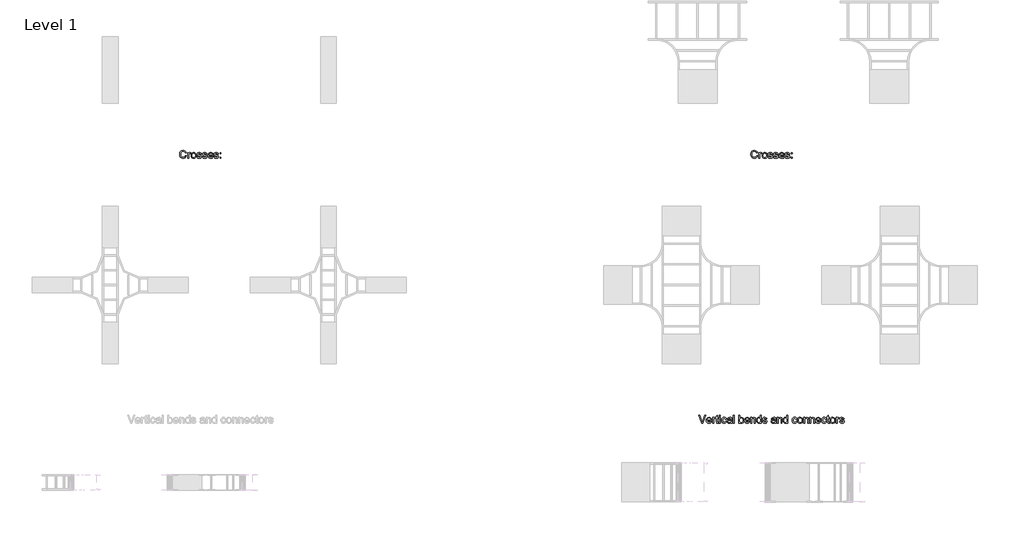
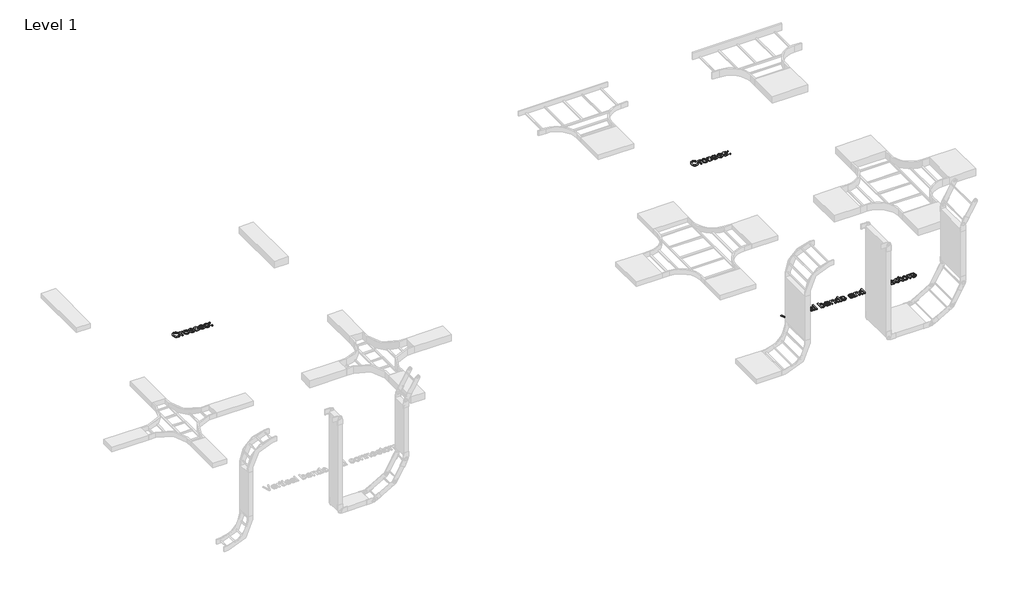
# One storey, part 95 of 106: 3 proxies.
"""IFC4 building model written with IfcOpenShell, lengths in millimetres."""

from ifc_helpers import new_model, si_unit, origin, origin_with_axes, place, context, project, spatial, polyline, outline, extrude, element, save

model = new_model("IFC4")

# Units and contexts
model_context = context("Model", 3, world=origin())
ifc_project = project(units=[si_unit("LENGTHUNIT", "METRE", prefix="MILLI")], contexts=[model_context])

# Site, building, storey
site = spatial("IfcSite", under=ifc_project)
building = spatial("IfcBuilding", under=site)
storey = spatial("IfcBuildingStorey", under=building, Name="Level 1", Elevation=0.0)

# Proxies
placement = place(None, origin())
element("IfcBuildingElementProxy", 1, Name="150mm Arial 2", ObjectType="150mm Arial 2", at=placement, inside=storey, context=model_context, shape_type="SweptSolid", body=[
    extrude(outline(polyline([(132026.8011102, 62501.4112533), (132045.6366684, 62496.5552109), (132036.9454562, 62474.6064514), (132023.3062312, 62458.5713949), (132005.3903781, 62448.7627412), (131983.8692814, 62445.49319), (131962.0216894, 62447.9671964), (131944.6714548, 62455.3892157), (131931.3725206, 62467.5017304), (131921.6788301, 62484.0472231), (131915.7605285, 62503.4989836), (131913.7877613, 62524.3303016), (131916.0180459, 62546.3020537), (131922.7088997, 62565.2755676), (131933.5108347, 62580.6484365), (131948.0743632, 62591.8182536), (131965.3464229, 62598.619472), (131984.2739516, 62600.8865448), (132004.9259271, 62597.9526859), (132022.0002502, 62589.1511091), (132034.963492, 62575.0244405), (132043.2822236, 62556.115306), (132024.4466654, 62551.6271456), (132017.91676, 62565.3629396), (132008.9956216, 62574.7853172), (131997.5728857, 62580.2345693), (131983.5381876, 62582.0509866), (131967.3605768, 62580.0368327), (131954.0708398, 62573.9943709), (131943.9862746, 62564.5581977), (131937.4241795, 62552.3629096), (131932.6233194, 62524.3670898), (131934.0442636, 62506.9662714), (131938.3070963, 62491.9198978), (131945.5727657, 62479.8027846), (131956.0022202, 62471.1897474), (131968.5056095, 62466.043998), (131981.9930832, 62464.3287482), (131997.71544, 62466.6647988), (132010.8166375, 62473.6729508), (132020.7080647, 62485.2796278), (132026.8011102, 62501.4112533)])), origin_with_axes(), (0.0, 0.0, 1.0), 15.0),
    extrude(outline(polyline([(132069.181116, 62447.8476348), (132069.181116, 62558.5065389), (132085.6622294, 62558.5065389), (132085.6622294, 62542.1357901), (132097.3608769, 62557.2189519), (132109.1331007, 62560.8609837), (132128.0422353, 62555.0484482), (132121.7514532, 62538.1626646), (132108.5077013, 62542.0254255), (132097.8575176, 62538.3098174), (132091.0700948, 62528.0091215), (132088.0166742, 62506.0097782), (132088.0166742, 62447.8476348), (132069.181116, 62447.8476348)])), origin_with_axes(), (0.0, 0.0, 1.0), 15.0),
    extrude(outline(polyline([(132135.1055696, 62503.1770869), (132139.1798627, 62529.8577286), (132151.402742, 62548.6105133), (132166.5042979, 62557.7983661), (132184.5856979, 62560.8609837), (132204.3731507, 62557.13158), (132220.178281, 62545.9433688), (132230.5387577, 62528.179267), (132233.9922499, 62504.7221912), (132232.4655396, 62485.693495), (132227.8854088, 62471.2081415), (132220.3852146, 62460.3602211), (132210.0983143, 62452.2438246), (132197.8800335, 62447.1808487), (132184.5856979, 62445.49319), (132164.5591218, 62449.2087982), (132148.7723857, 62460.3556226), (132138.5222736, 62478.492205), (132135.1055696, 62503.1770869)]), holes=[polyline([(132153.9411277, 62503.2138751), (132156.1208286, 62486.1671431), (132162.659931, 62474.0224387), (132172.5007744, 62466.7521708), (132184.5856979, 62464.3287482), (132196.6154392, 62466.7659664), (132206.4378884, 62474.077621), (132212.9769909, 62486.3832738), (132215.1566917, 62503.8024862), (132212.9631953, 62520.3525775), (132206.3827061, 62532.331735), (132196.5464613, 62539.6020029), (132184.5856979, 62542.0254255), (132172.5007744, 62539.6112), (132162.659931, 62532.3685232), (132156.1208286, 62520.25141), (132153.9411277, 62503.2138751)])]), origin_with_axes(), (0.0, 0.0, 1.0), 15.0),
    extrude(outline(polyline([(132248.1189185, 62480.8098615), (132266.9544766, 62483.1643063), (132269.9251238, 62475.1076906), (132275.6732799, 62469.1847905), (132295.6492723, 62464.3287482), (132314.8527124, 62468.7801203), (132321.1067063, 62479.227969), (132319.5340108, 62484.028829), (132314.8159242, 62487.6892549), (132295.4285431, 62493.060332), (132267.0648412, 62502.275776), (132254.6856121, 62513.0363243), (132250.4733633, 62528.2298507), (132253.8578776, 62542.2645488), (132263.0917157, 62552.988309), (132275.0662746, 62558.5617212), (132291.2714765, 62560.8609837), (132314.1905248, 62557.1637696), (132328.7586518, 62547.1573794), (132335.233375, 62530.2532017), (132316.3978168, 62527.8987569), (132309.3160884, 62538.2914233), (132292.7430045, 62542.0254255), (132274.7167867, 62538.4569702), (132269.3089214, 62530.1428371), (132271.5530016, 62524.6613954), (132278.5795477, 62520.5043288), (132294.8031437, 62516.4944151), (132322.4494756, 62507.628459), (132335.2885573, 62497.5852805), (132339.9422645, 62481.2145317), (132334.4792169, 62463.188314), (132318.7154734, 62450.1101091), (132295.3917549, 62445.49319), (132276.3998469, 62447.7188761), (132262.5398927, 62454.3959343), (132253.2876605, 62465.4507882), (132248.1189185, 62480.8098615)])), origin_with_axes(), (0.0, 0.0, 1.0), 15.0),
    extrude(outline(polyline([(132354.0689331, 62480.8098615), (132372.9044913, 62483.1643063), (132375.8751384, 62475.1076906), (132381.6232945, 62469.1847905), (132401.5992869, 62464.3287482), (132420.802727, 62468.7801203), (132427.056721, 62479.227969), (132425.4840254, 62484.028829), (132420.7659388, 62487.6892549), (132401.3785577, 62493.060332), (132373.0148559, 62502.275776), (132360.6356267, 62513.0363243), (132356.4233779, 62528.2298507), (132359.8078922, 62542.2645488), (132369.0417303, 62552.988309), (132381.0162893, 62558.5617212), (132397.2214911, 62560.8609837), (132420.1405394, 62557.1637696), (132434.7086664, 62547.1573794), (132441.1833896, 62530.2532017), (132422.3478314, 62527.8987569), (132415.266103, 62538.2914233), (132398.6930191, 62542.0254255), (132380.6668014, 62538.4569702), (132375.258936, 62530.1428371), (132377.5030162, 62524.6613954), (132384.5295623, 62520.5043288), (132400.7531583, 62516.4944151), (132428.3994902, 62507.628459), (132441.2385719, 62497.5852805), (132445.8922791, 62481.2145317), (132440.4292315, 62463.188314), (132424.665488, 62450.1101091), (132401.3417695, 62445.49319), (132382.3498615, 62447.7188761), (132368.4899073, 62454.3959343), (132359.2376751, 62465.4507882), (132354.0689331, 62480.8098615)])), origin_with_axes(), (0.0, 0.0, 1.0), 15.0),
    extrude(outline(polyline([(132544.5582302, 62480.8098615), (132563.0259064, 62478.4554168), (132556.3718408, 62464.5402803), (132545.7538467, 62454.1384169), (132531.4110474, 62447.6544967), (132513.5825662, 62445.49319), (132491.4820554, 62449.2225937), (132474.4767101, 62460.4108049), (132463.6333883, 62478.3312566), (132460.0189477, 62502.2573819), (132463.6701765, 62526.988249), (132474.6238629, 62545.4835163), (132491.3992819, 62557.0166168), (132512.5157084, 62560.8609837), (132532.9745459, 62557.0258139), (132549.322302, 62545.5203045), (132560.0414637, 62527.0618254), (132563.6145176, 62502.3677465), (132563.504153, 62497.2909749), (132478.8545059, 62497.2909749), (132482.1148601, 62483.1918975), (132489.6886306, 62472.8268223), (132500.6193244, 62466.4532667), (132513.9504482, 62464.3287482), (132532.4181244, 62468.2650855), (132544.5582302, 62480.8098615)]), holes=[polyline([(132478.8545059, 62516.1265331), (132544.7789594, 62516.1265331), (132542.2313766, 62526.0777411), (132537.2373785, 62533.1962577), (132526.2561009, 62539.8181336), (132512.442132, 62542.0254255), (132499.7456047, 62540.2641905), (132489.2471722, 62534.9804853), (132481.9493132, 62526.7445272), (132478.8545059, 62516.1265331)])]), origin_with_axes(), (0.0, 0.0, 1.0), 15.0),
    extrude(outline(polyline([(132575.3867414, 62480.8098615), (132594.2222996, 62483.1643063), (132597.1929467, 62475.1076906), (132602.9411028, 62469.1847905), (132622.9170952, 62464.3287482), (132642.1205353, 62468.7801203), (132648.3745292, 62479.227969), (132646.8018337, 62484.028829), (132642.0837471, 62487.6892549), (132622.696366, 62493.060332), (132594.3326642, 62502.275776), (132581.953435, 62513.0363243), (132577.7411862, 62528.2298507), (132581.1257005, 62542.2645488), (132590.3595386, 62552.988309), (132602.3340976, 62558.5617212), (132618.5392994, 62560.8609837), (132641.4583477, 62557.1637696), (132656.0264747, 62547.1573794), (132662.5011979, 62530.2532017), (132643.6656397, 62527.8987569), (132636.5839113, 62538.2914233), (132620.0108274, 62542.0254255), (132601.9846097, 62538.4569702), (132596.5767443, 62530.1428371), (132598.8208245, 62524.6613954), (132605.8473706, 62520.5043288), (132622.0709666, 62516.4944151), (132649.7172985, 62507.628459), (132662.5563802, 62497.5852805), (132667.2100874, 62481.2145317), (132661.7470398, 62463.188314), (132645.9832963, 62450.1101091), (132622.6595778, 62445.49319), (132603.6676698, 62447.7188761), (132589.8077156, 62454.3959343), (132580.5554834, 62465.4507882), (132575.3867414, 62480.8098615)])), origin_with_axes(), (0.0, 0.0, 1.0), 15.0),
    extrude(outline(polyline([(132693.1089799, 62539.6709808), (132693.1089799, 62558.5065389), (132711.944538, 62558.5065389), (132711.944538, 62539.6709808), (132693.1089799, 62539.6709808)])), origin_with_axes(), (0.0, 0.0, 1.0), 15.0),
    extrude(outline(polyline([(132693.1089799, 62447.8476348), (132693.1089799, 62466.6831929), (132711.944538, 62466.6831929), (132711.944538, 62447.8476348), (132693.1089799, 62447.8476348)])), origin_with_axes(), (0.0, 0.0, 1.0), 15.0),
])
element("IfcBuildingElementProxy", 2, Name="150mm Arial 2", ObjectType="150mm Arial 2", at=placement, inside=storey, context=model_context, shape_type="SweptSolid", body=[
    extrude(outline(polyline([(143026.8011102, 62501.4112533), (143045.6366684, 62496.5552109), (143036.9454562, 62474.6064514), (143023.3062312, 62458.5713949), (143005.3903781, 62448.7627412), (142983.8692814, 62445.49319), (142962.0216894, 62447.9671964), (142944.6714548, 62455.3892157), (142931.3725206, 62467.5017304), (142921.6788301, 62484.0472231), (142915.7605285, 62503.4989836), (142913.7877613, 62524.3303016), (142916.0180459, 62546.3020537), (142922.7088997, 62565.2755676), (142933.5108347, 62580.6484365), (142948.0743632, 62591.8182536), (142965.3464229, 62598.619472), (142984.2739516, 62600.8865448), (143004.9259271, 62597.9526859), (143022.0002502, 62589.1511091), (143034.963492, 62575.0244405), (143043.2822236, 62556.115306), (143024.4466654, 62551.6271456), (143017.91676, 62565.3629396), (143008.9956216, 62574.7853172), (142997.5728857, 62580.2345693), (142983.5381876, 62582.0509866), (142967.3605768, 62580.0368327), (142954.0708398, 62573.9943709), (142943.9862746, 62564.5581977), (142937.4241795, 62552.3629096), (142932.6233194, 62524.3670898), (142934.0442636, 62506.9662714), (142938.3070963, 62491.9198978), (142945.5727657, 62479.8027846), (142956.0022202, 62471.1897474), (142968.5056095, 62466.043998), (142981.9930832, 62464.3287482), (142997.71544, 62466.6647988), (143010.8166375, 62473.6729508), (143020.7080647, 62485.2796278), (143026.8011102, 62501.4112533)])), origin_with_axes(), (0.0, 0.0, 1.0), 15.0),
    extrude(outline(polyline([(143069.181116, 62447.8476348), (143069.181116, 62558.5065389), (143085.6622294, 62558.5065389), (143085.6622294, 62542.1357901), (143097.3608769, 62557.2189519), (143109.1331007, 62560.8609837), (143128.0422353, 62555.0484482), (143121.7514532, 62538.1626646), (143108.5077013, 62542.0254255), (143097.8575176, 62538.3098174), (143091.0700948, 62528.0091215), (143088.0166742, 62506.0097782), (143088.0166742, 62447.8476348), (143069.181116, 62447.8476348)])), origin_with_axes(), (0.0, 0.0, 1.0), 15.0),
    extrude(outline(polyline([(143135.1055696, 62503.1770869), (143139.1798627, 62529.8577286), (143151.402742, 62548.6105133), (143166.5042979, 62557.7983661), (143184.5856979, 62560.8609837), (143204.3731507, 62557.13158), (143220.178281, 62545.9433688), (143230.5387577, 62528.179267), (143233.9922499, 62504.7221912), (143232.4655396, 62485.693495), (143227.8854088, 62471.2081415), (143220.3852146, 62460.3602211), (143210.0983143, 62452.2438246), (143197.8800335, 62447.1808487), (143184.5856979, 62445.49319), (143164.5591218, 62449.2087982), (143148.7723857, 62460.3556226), (143138.5222736, 62478.492205), (143135.1055696, 62503.1770869)]), holes=[polyline([(143153.9411277, 62503.2138751), (143156.1208286, 62486.1671431), (143162.659931, 62474.0224387), (143172.5007744, 62466.7521708), (143184.5856979, 62464.3287482), (143196.6154392, 62466.7659664), (143206.4378884, 62474.077621), (143212.9769909, 62486.3832738), (143215.1566917, 62503.8024862), (143212.9631953, 62520.3525775), (143206.3827061, 62532.331735), (143196.5464613, 62539.6020029), (143184.5856979, 62542.0254255), (143172.5007744, 62539.6112), (143162.659931, 62532.3685232), (143156.1208286, 62520.25141), (143153.9411277, 62503.2138751)])]), origin_with_axes(), (0.0, 0.0, 1.0), 15.0),
    extrude(outline(polyline([(143248.1189185, 62480.8098615), (143266.9544766, 62483.1643063), (143269.9251238, 62475.1076906), (143275.6732799, 62469.1847905), (143295.6492723, 62464.3287482), (143314.8527124, 62468.7801203), (143321.1067063, 62479.227969), (143319.5340108, 62484.028829), (143314.8159242, 62487.6892549), (143295.4285431, 62493.060332), (143267.0648412, 62502.275776), (143254.6856121, 62513.0363243), (143250.4733633, 62528.2298507), (143253.8578776, 62542.2645488), (143263.0917157, 62552.988309), (143275.0662746, 62558.5617212), (143291.2714765, 62560.8609837), (143314.1905248, 62557.1637696), (143328.7586518, 62547.1573794), (143335.233375, 62530.2532017), (143316.3978168, 62527.8987569), (143309.3160884, 62538.2914233), (143292.7430045, 62542.0254255), (143274.7167867, 62538.4569702), (143269.3089214, 62530.1428371), (143271.5530016, 62524.6613954), (143278.5795477, 62520.5043288), (143294.8031437, 62516.4944151), (143322.4494756, 62507.628459), (143335.2885573, 62497.5852805), (143339.9422645, 62481.2145317), (143334.4792169, 62463.188314), (143318.7154734, 62450.110109), (143295.3917549, 62445.49319), (143276.3998469, 62447.7188761), (143262.5398927, 62454.3959343), (143253.2876605, 62465.4507882), (143248.1189185, 62480.8098615)])), origin_with_axes(), (0.0, 0.0, 1.0), 15.0),
    extrude(outline(polyline([(143354.0689331, 62480.8098615), (143372.9044913, 62483.1643063), (143375.8751384, 62475.1076906), (143381.6232945, 62469.1847905), (143401.5992869, 62464.3287482), (143420.802727, 62468.7801203), (143427.056721, 62479.227969), (143425.4840254, 62484.028829), (143420.7659388, 62487.6892549), (143401.3785577, 62493.060332), (143373.0148559, 62502.275776), (143360.6356267, 62513.0363243), (143356.4233779, 62528.2298507), (143359.8078922, 62542.2645488), (143369.0417303, 62552.988309), (143381.0162893, 62558.5617212), (143397.2214911, 62560.8609837), (143420.1405394, 62557.1637696), (143434.7086664, 62547.1573794), (143441.1833896, 62530.2532017), (143422.3478314, 62527.8987569), (143415.266103, 62538.2914233), (143398.6930191, 62542.0254255), (143380.6668014, 62538.4569702), (143375.258936, 62530.1428371), (143377.5030162, 62524.6613954), (143384.5295623, 62520.5043288), (143400.7531583, 62516.4944151), (143428.3994902, 62507.628459), (143441.2385719, 62497.5852805), (143445.8922791, 62481.2145317), (143440.4292315, 62463.188314), (143424.665488, 62450.110109), (143401.3417695, 62445.49319), (143382.3498615, 62447.7188761), (143368.4899073, 62454.3959343), (143359.2376751, 62465.4507882), (143354.0689331, 62480.8098615)])), origin_with_axes(), (0.0, 0.0, 1.0), 15.0),
    extrude(outline(polyline([(143544.5582302, 62480.8098615), (143563.0259064, 62478.4554168), (143556.3718408, 62464.5402803), (143545.7538467, 62454.1384169), (143531.4110474, 62447.6544967), (143513.5825662, 62445.49319), (143491.4820554, 62449.2225937), (143474.4767101, 62460.4108049), (143463.6333883, 62478.3312566), (143460.0189477, 62502.2573819), (143463.6701765, 62526.988249), (143474.6238629, 62545.4835163), (143491.3992819, 62557.0166168), (143512.5157084, 62560.8609837), (143532.9745459, 62557.0258139), (143549.322302, 62545.5203045), (143560.0414637, 62527.0618254), (143563.6145176, 62502.3677465), (143563.504153, 62497.2909749), (143478.8545059, 62497.2909749), (143482.1148601, 62483.1918975), (143489.6886306, 62472.8268223), (143500.6193244, 62466.4532667), (143513.9504482, 62464.3287482), (143532.4181244, 62468.2650855), (143544.5582302, 62480.8098615)]), holes=[polyline([(143478.8545059, 62516.1265331), (143544.7789594, 62516.1265331), (143542.2313766, 62526.0777411), (143537.2373785, 62533.1962577), (143526.2561009, 62539.8181336), (143512.442132, 62542.0254255), (143499.7456047, 62540.2641905), (143489.2471722, 62534.9804853), (143481.9493132, 62526.7445272), (143478.8545059, 62516.1265331)])]), origin_with_axes(), (0.0, 0.0, 1.0), 15.0),
    extrude(outline(polyline([(143575.3867414, 62480.8098615), (143594.2222996, 62483.1643063), (143597.1929467, 62475.1076906), (143602.9411028, 62469.1847905), (143622.9170952, 62464.3287482), (143642.1205353, 62468.7801203), (143648.3745292, 62479.227969), (143646.8018337, 62484.028829), (143642.0837471, 62487.6892549), (143622.696366, 62493.060332), (143594.3326642, 62502.275776), (143581.953435, 62513.0363243), (143577.7411862, 62528.2298507), (143581.1257005, 62542.2645488), (143590.3595386, 62552.988309), (143602.3340976, 62558.5617212), (143618.5392994, 62560.8609837), (143641.4583477, 62557.1637696), (143656.0264747, 62547.1573794), (143662.5011979, 62530.2532017), (143643.6656397, 62527.8987569), (143636.5839113, 62538.2914233), (143620.0108274, 62542.0254255), (143601.9846097, 62538.4569702), (143596.5767443, 62530.1428371), (143598.8208245, 62524.6613954), (143605.8473706, 62520.5043288), (143622.0709666, 62516.4944151), (143649.7172985, 62507.628459), (143662.5563802, 62497.5852805), (143667.2100874, 62481.2145317), (143661.7470398, 62463.188314), (143645.9832963, 62450.110109), (143622.6595778, 62445.49319), (143603.6676698, 62447.7188761), (143589.8077156, 62454.3959343), (143580.5554834, 62465.4507882), (143575.3867414, 62480.8098615)])), origin_with_axes(), (0.0, 0.0, 1.0), 15.0),
    extrude(outline(polyline([(143693.1089799, 62539.6709808), (143693.1089799, 62558.5065389), (143711.944538, 62558.5065389), (143711.944538, 62539.6709808), (143693.1089799, 62539.6709808)])), origin_with_axes(), (0.0, 0.0, 1.0), 15.0),
    extrude(outline(polyline([(143693.1089799, 62447.8476348), (143693.1089799, 62466.6831929), (143711.944538, 62466.6831929), (143711.944538, 62447.8476348), (143693.1089799, 62447.8476348)])), origin_with_axes(), (0.0, 0.0, 1.0), 15.0),
])
element("IfcBuildingElementProxy", 3, Name="150mm Arial 2", ObjectType="150mm Arial 2", at=placement, inside=storey, context=model_context, shape_type="SweptSolid", body=[
    extrude(outline(polyline([(141972.9295586, 57347.8476348), (141913.0015816, 57498.5321), (141933.1615149, 57498.5321), (141973.2974406, 57389.9701232), (141981.4276327, 57365.5059705), (141989.4474602, 57389.9701232), (142029.6937505, 57498.5321), (142049.8168956, 57498.5321), (141992.353728, 57347.8476348), (141972.9295586, 57347.8476348)])), origin_with_axes(), (0.0, 0.0, 1.0), 15.0),
    extrude(outline(polyline([(142142.4863702, 57380.8098615), (142160.9540463, 57378.4554168), (142154.2999808, 57364.5402803), (142143.6819867, 57354.1384169), (142129.3391874, 57347.6544967), (142111.5107062, 57345.49319), (142089.4101953, 57349.2225937), (142072.4048501, 57360.4108049), (142061.5615283, 57378.3312566), (142057.9470877, 57402.2573819), (142061.5983165, 57426.988249), (142072.5520029, 57445.4835163), (142089.3274219, 57457.0166168), (142110.4438484, 57460.8609837), (142130.9026859, 57457.0258139), (142147.250442, 57445.5203045), (142157.9696037, 57427.0618254), (142161.5426575, 57402.3677465), (142161.4322929, 57397.2909749), (142076.7826459, 57397.2909749), (142080.043, 57383.1918975), (142087.6167706, 57372.8268223), (142098.5474644, 57366.4532667), (142111.8785882, 57364.3287482), (142130.3462644, 57368.2650855), (142142.4863702, 57380.8098615)]), holes=[polyline([(142076.7826459, 57416.1265331), (142142.7070994, 57416.1265331), (142140.1595166, 57426.0777411), (142135.1655185, 57433.1962577), (142124.1842409, 57439.8181336), (142110.370272, 57442.0254255), (142097.6737447, 57440.2641905), (142087.1753122, 57434.9804853), (142079.8774531, 57426.7445272), (142076.7826459, 57416.1265331)])]), origin_with_axes(), (0.0, 0.0, 1.0), 15.0),
    extrude(outline(polyline([(142291.0371198, 57363.556196), (142293.3915646, 57347.2958118), (142279.3016842, 57345.49319), (142263.5195466, 57348.620187), (142255.6468719, 57356.8239555), (142253.3660035, 57378.1978994), (142253.3660035, 57439.6709808), (142239.2393349, 57439.6709808), (142239.2393349, 57455.0484482), (142239.2393349, 57458.5065389), (142253.3660035, 57458.5065389), (142253.3660035, 57485.3987128), (142272.2015617, 57496.4719608), (142272.2015617, 57458.5065389), (142291.0371198, 57458.5065389), (142291.0371198, 57439.6709808), (142272.2015617, 57439.6709808), (142272.2015617, 57378.7497224), (142273.1948431, 57369.0376377), (142276.4138105, 57365.597941), (142282.8333514, 57364.3287482), (142291.0371198, 57363.556196)])), origin_with_axes(), (0.0, 0.0, 1.0), 15.0),
    extrude(outline(polyline([(142180.3782157, 57347.8476348), (142180.3782157, 57458.5065389), (142196.8593291, 57458.5065389), (142196.8593291, 57442.1357901), (142208.5579765, 57457.2189519), (142220.3302004, 57460.8609837), (142239.2393349, 57455.0484482), (142232.9485528, 57438.1626646), (142219.704801, 57442.0254255), (142209.0546172, 57438.3098174), (142202.2671944, 57428.0091215), (142199.2137738, 57406.0097782), (142199.2137738, 57347.8476348), (142180.3782157, 57347.8476348)])), origin_with_axes(), (0.0, 0.0, 1.0), 15.0),
    extrude(outline(polyline([(142309.872678, 57479.6965419), (142309.872678, 57498.5321), (142328.7082362, 57498.5321), (142328.7082362, 57479.6965419), (142309.872678, 57479.6965419)])), origin_with_axes(), (0.0, 0.0, 1.0), 15.0),
    extrude(outline(polyline([(142309.872678, 57347.8476348), (142309.872678, 57458.5065389), (142328.7082362, 57458.5065389), (142328.7082362, 57347.8476348), (142309.872678, 57347.8476348)])), origin_with_axes(), (0.0, 0.0, 1.0), 15.0),
    extrude(outline(polyline([(142427.5949165, 57387.8731959), (142446.4304746, 57385.5187511), (142441.1789591, 57368.7663247), (142431.3105246, 57356.1065856), (142417.7540731, 57348.1465389), (142401.4385066, 57345.49319), (142381.4027334, 57349.1950026), (142365.735559, 57360.3004403), (142355.6234026, 57378.3220596), (142352.2526838, 57402.7724167), (142353.6920221, 57419.5340401), (142358.0100371, 57434.0607803), (142365.2757065, 57445.7916175), (142375.5580082, 57454.1655314), (142387.8590624, 57459.1871206), (142401.1809892, 57460.8609837), (142417.096484, 57458.5617212), (142429.8206025, 57451.6639338), (142438.9486745, 57440.5355035), (142444.0760298, 57425.5443122), (142425.2404717, 57423.1898674), (142416.5032743, 57437.2981419), (142401.328142, 57442.0254255), (142389.1558465, 57439.6985719), (142379.4943456, 57432.7180111), (142373.1897679, 57420.7066639), (142371.088242, 57403.2874515), (142373.1437826, 57385.6337142), (142379.3104046, 57373.5809803), (142388.7971615, 57366.6418062), (142400.8131072, 57364.3287482), (142410.5665786, 57365.772685), (142418.5634135, 57370.1044955), (142424.3805475, 57377.4345442), (142427.5949165, 57387.8731959)])), origin_with_axes(), (0.0, 0.0, 1.0), 15.0),
    extrude(outline(polyline([(142533.5449311, 57361.9743034), (142515.27959, 57349.2087982), (142495.1012626, 57345.49319), (142479.3605117, 57347.7280731), (142467.7492362, 57354.4327225), (142460.5893329, 57364.6138567), (142458.2026985, 57377.2781944), (142461.807942, 57392.1774152), (142471.2809034, 57402.9931459), (142484.4694729, 57409.1735634), (142500.7666453, 57412.0062547), (142533.4345665, 57418.4809779), (142533.5449311, 57422.6748326), (142532.248147, 57431.0809362), (142528.3577949, 57436.580772), (142519.6573857, 57440.6642622), (142507.535674, 57442.0254255), (142488.4793867, 57438.4017879), (142479.3927014, 57425.5443122), (142460.5571432, 57427.8987569), (142468.7057294, 57446.2928567), (142485.1132664, 57457.0717991), (142509.9636952, 57460.8609837), (142532.790773, 57457.5132575), (142545.6850369, 57449.107154), (142551.4607842, 57436.3232546), (142552.3804892, 57419.8421412), (142552.3804892, 57396.4080581), (142553.3369824, 57363.6849547), (142557.0893788, 57347.8476348), (142538.2538206, 57347.8476348), (142533.5449311, 57361.9743034)]), holes=[polyline([(142533.5449311, 57399.6454197), (142503.1578783, 57393.8696724), (142486.9526764, 57390.8162518), (142479.6134306, 57385.8498449), (142477.0382566, 57378.6025696), (142482.648457, 57368.4122383), (142499.1111763, 57364.3287482), (142518.1674637, 57368.8353026), (142530.4547223, 57379.7430038), (142533.4345665, 57394.3111308), (142533.5449311, 57399.6454197)])]), origin_with_axes(), (0.0, 0.0, 1.0), 15.0),
    extrude(outline(polyline([(142578.2793817, 57347.8476348), (142578.2793817, 57498.5321), (142597.1149398, 57498.5321), (142597.1149398, 57347.8476348), (142578.2793817, 57347.8476348)])), origin_with_axes(), (0.0, 0.0, 1.0), 15.0),
    extrude(outline(polyline([(142703.0649544, 57347.8476348), (142684.2293963, 57347.8476348), (142684.2293963, 57498.5321), (142703.0649544, 57498.5321), (142703.0649544, 57442.6508249), (142716.253524, 57456.308444), (142732.6426669, 57460.8609837), (142751.5150132, 57456.7590995), (142766.1567166, 57445.2259989), (142775.1514314, 57427.2917516), (142778.4071871, 57404.8325558), (142775.0364683, 57379.6878215), (142764.9243119, 57360.981022), (142750.084872, 57349.365148), (142732.5323023, 57345.49319), (142715.7844744, 57350.4871881), (142703.0649544, 57365.4691823), (142703.0649544, 57347.8476348)]), holes=[polyline([(142703.0649544, 57403.949639), (142704.3525414, 57388.2410779), (142708.2153024, 57377.6092882), (142718.0837369, 57367.6488832), (142730.9136215, 57364.3287482), (142741.7845344, 57366.7751634), (142751.0735548, 57374.1144092), (142757.4471104, 57386.3005003), (142759.5716289, 57403.2874515), (142757.5344824, 57420.5227229), (142751.4230427, 57432.5708583), (142742.4237294, 57439.6617837), (142731.7229619, 57442.0254255), (142720.8520489, 57439.5790103), (142711.5630285, 57432.2397645), (142705.189473, 57420.2744026), (142703.0649544, 57403.949639)])]), origin_with_axes(), (0.0, 0.0, 1.0), 15.0),
    extrude(outline(polyline([(142877.0731382, 57380.8098615), (142895.5408143, 57378.4554168), (142888.8867487, 57364.5402803), (142878.2687546, 57354.1384169), (142863.9259554, 57347.6544967), (142846.0974742, 57345.49319), (142823.9969633, 57349.2225937), (142806.9916181, 57360.4108049), (142796.1482963, 57378.3312566), (142792.5338557, 57402.2573819), (142796.1850845, 57426.988249), (142807.1387709, 57445.4835163), (142823.9141899, 57457.0166168), (142845.0306164, 57460.8609837), (142865.4894538, 57457.0258139), (142881.83721, 57445.5203045), (142892.5563716, 57427.0618254), (142896.1294255, 57402.3677465), (142896.0190609, 57397.2909749), (142811.3694138, 57397.2909749), (142814.629768, 57383.1918975), (142822.2035386, 57372.8268223), (142833.1342324, 57366.4532667), (142846.4653562, 57364.3287482), (142864.9330323, 57368.2650855), (142877.0731382, 57380.8098615)]), holes=[polyline([(142811.3694138, 57416.1265331), (142877.2938674, 57416.1265331), (142874.7462845, 57426.0777411), (142869.7522865, 57433.1962577), (142858.7710089, 57439.8181336), (142844.95704, 57442.0254255), (142832.2605126, 57440.2641905), (142821.7620802, 57434.9804853), (142814.4642211, 57426.7445272), (142811.3694138, 57416.1265331)])]), origin_with_axes(), (0.0, 0.0, 1.0), 15.0),
    extrude(outline(polyline([(142914.9649837, 57347.8476348), (142914.9649837, 57458.5065389), (142933.8005418, 57458.5065389), (142933.8005418, 57443.0554951), (142948.2031219, 57456.4096116), (142967.8664146, 57460.8609837), (142985.653509, 57457.2741342), (142997.7936149, 57447.8563552), (143003.4406035, 57434.0055981), (143004.4338849, 57415.7954393), (143004.4338849, 57347.8476348), (142985.5983267, 57347.8476348), (142985.5983267, 57413.2570535), (142983.427823, 57429.9221079), (142975.7574834, 57438.7328817), (142962.8264312, 57442.0254255), (142951.7945699, 57440.1768185), (142942.3905864, 57434.6309974), (142935.948053, 57423.9164343), (142933.8005418, 57406.5616012), (142933.8005418, 57347.8476348), (142914.9649837, 57347.8476348)])), origin_with_axes(), (0.0, 0.0, 1.0), 15.0),
    extrude(outline(polyline([(143098.6116757, 57347.8476348), (143098.6116757, 57365.6163351), (143086.1496731, 57350.5239763), (143068.9235986, 57345.49319), (143056.7467046, 57347.3142059), (143045.5998802, 57352.7772535), (143036.163707, 57361.5006553), (143029.1187668, 57373.1027337), (143024.731774, 57387.1144392), (143023.269443, 57403.0667223), (143028.6589143, 57433.0491049), (143035.3911548, 57444.9408904), (143044.8089339, 57453.6872848), (143056.1994801, 57459.067559), (143068.8500222, 57460.8609837), (143086.2140524, 57455.7290299), (143098.6116757, 57442.3933075), (143098.6116757, 57498.5321), (143117.4472338, 57498.5321), (143117.4472338, 57347.8476348), (143098.6116757, 57347.8476348)]), holes=[polyline([(143042.1050012, 57403.1402987), (143044.2295197, 57386.1027638), (143050.6030753, 57373.9856505), (143059.8645045, 57366.7429738), (143070.652644, 57364.3287482), (143081.436185, 57366.6326092), (143090.4630895, 57373.5441921), (143096.5745291, 57385.1922558), (143098.6116757, 57401.7055589), (143096.5377409, 57419.7593678), (143090.3159367, 57432.2765527), (143081.059106, 57439.5882073), (143069.8800918, 57442.0254255), (143058.9815877, 57439.6847764), (143050.0512523, 57432.6628288), (143044.091564, 57420.6008979), (143042.1050012, 57403.1402987)])]), origin_with_axes(), (0.0, 0.0, 1.0), 15.0),
    extrude(outline(polyline([(143138.6372367, 57380.8098615), (143157.4727949, 57383.1643063), (143160.443442, 57375.1076906), (143166.1915982, 57369.1847905), (143186.1675905, 57364.3287482), (143205.3710307, 57368.7801203), (143211.6250246, 57379.227969), (143210.052329, 57384.028829), (143205.3342425, 57387.6892549), (143185.9468613, 57393.060332), (143157.5831595, 57402.275776), (143145.2039303, 57413.0363243), (143140.9916815, 57428.2298507), (143144.3761959, 57442.2645488), (143153.6100339, 57452.988309), (143165.5845929, 57458.5617212), (143181.7897948, 57460.8609837), (143204.7088431, 57457.1637696), (143219.2769701, 57447.1573794), (143225.7516932, 57430.2532017), (143206.916135, 57427.8987569), (143199.8344066, 57438.2914233), (143183.2613227, 57442.0254255), (143165.235105, 57438.4569702), (143159.8272397, 57430.1428371), (143162.0713198, 57424.6613954), (143169.0978659, 57420.5043288), (143185.3214619, 57416.4944151), (143212.9677939, 57407.628459), (143225.8068755, 57397.5852805), (143230.4605827, 57381.2145317), (143224.9975351, 57363.188314), (143209.2337916, 57350.110109), (143185.9100731, 57345.49319), (143166.9181651, 57347.7188761), (143153.0582109, 57354.3959343), (143143.8059788, 57365.4507882), (143138.6372367, 57380.8098615)])), origin_with_axes(), (0.0, 0.0, 1.0), 15.0),
    extrude(outline(polyline([(143381.145048, 57361.9743034), (143362.8797069, 57349.2087982), (143342.7013795, 57345.49319), (143326.9606286, 57347.7280731), (143315.3493531, 57354.4327225), (143308.1894498, 57364.6138567), (143305.8028153, 57377.2781944), (143309.4080589, 57392.1774152), (143318.8810203, 57402.9931459), (143332.0695898, 57409.1735634), (143348.3667622, 57412.0062547), (143381.0346834, 57418.4809779), (143381.145048, 57422.6748326), (143379.8482639, 57431.0809362), (143375.9579118, 57436.580772), (143367.2575026, 57440.6642622), (143355.1357909, 57442.0254255), (143336.0795035, 57438.4017879), (143326.9928183, 57425.5443122), (143308.1572601, 57427.8987569), (143316.3058463, 57446.2928567), (143332.7133833, 57457.0717991), (143357.5638121, 57460.8609837), (143380.3908899, 57457.5132575), (143393.2851538, 57449.107154), (143399.0609011, 57436.3232546), (143399.9806061, 57419.8421412), (143399.9806061, 57396.4080581), (143400.9370993, 57363.6849547), (143404.6894956, 57347.8476348), (143385.8539375, 57347.8476348), (143381.145048, 57361.9743034)]), holes=[polyline([(143381.145048, 57399.6454197), (143350.7579952, 57393.8696724), (143334.5527933, 57390.8162518), (143327.2135475, 57385.8498449), (143324.6383735, 57378.6025696), (143330.2485739, 57368.4122383), (143346.7112932, 57364.3287482), (143365.7675806, 57368.8353026), (143378.0548392, 57379.7430038), (143381.0346834, 57394.3111308), (143381.145048, 57399.6454197)])]), origin_with_axes(), (0.0, 0.0, 1.0), 15.0),
    extrude(outline(polyline([(143425.8794986, 57347.8476348), (143425.8794986, 57458.5065389), (143444.7150567, 57458.5065389), (143444.7150567, 57443.0554951), (143459.1176368, 57456.4096116), (143478.7809295, 57460.8609837), (143496.5680239, 57457.2741342), (143508.7081298, 57447.8563552), (143514.3551184, 57434.0055981), (143515.3483998, 57415.7954393), (143515.3483998, 57347.8476348), (143496.5128416, 57347.8476348), (143496.5128416, 57413.2570535), (143494.3423379, 57429.9221079), (143486.6719983, 57438.7328817), (143473.7409461, 57442.0254255), (143462.7090848, 57440.1768185), (143453.3051013, 57434.6309974), (143446.8625679, 57423.9164343), (143444.7150567, 57406.5616012), (143444.7150567, 57347.8476348), (143425.8794986, 57347.8476348)])), origin_with_axes(), (0.0, 0.0, 1.0), 15.0),
    extrude(outline(polyline([(143609.5261906, 57347.8476348), (143609.5261906, 57365.6163351), (143597.064188, 57350.5239763), (143579.8381135, 57345.49319), (143567.6612195, 57347.3142059), (143556.5143951, 57352.7772535), (143547.0782219, 57361.5006553), (143540.0332817, 57373.1027337), (143535.6462889, 57387.1144392), (143534.1839579, 57403.0667223), (143539.5734292, 57433.0491049), (143546.3056697, 57444.9408904), (143555.7234488, 57453.6872848), (143567.113995, 57459.067559), (143579.7645371, 57460.8609837), (143597.1285673, 57455.7290299), (143609.5261906, 57442.3933075), (143609.5261906, 57498.5321), (143628.3617487, 57498.5321), (143628.3617487, 57347.8476348), (143609.5261906, 57347.8476348)]), holes=[polyline([(143553.0195161, 57403.1402987), (143555.1440346, 57386.1027638), (143561.5175902, 57373.9856505), (143570.7790194, 57366.7429738), (143581.5671589, 57364.3287482), (143592.3506999, 57366.6326092), (143601.3776044, 57373.5441921), (143607.489044, 57385.1922558), (143609.5261906, 57401.7055589), (143607.4522558, 57419.7593678), (143601.2304516, 57432.2765527), (143591.9736209, 57439.5882073), (143580.7946067, 57442.0254255), (143569.8961026, 57439.6847764), (143560.9657672, 57432.6628288), (143555.0060789, 57420.6008979), (143553.0195161, 57403.1402987)])]), origin_with_axes(), (0.0, 0.0, 1.0), 15.0),
    extrude(outline(polyline([(143786.1095482, 57387.8731959), (143804.9451064, 57385.5187511), (143799.6935909, 57368.7663247), (143789.8251564, 57356.1065856), (143776.2687049, 57348.1465389), (143759.9531384, 57345.49319), (143739.9173652, 57349.1950026), (143724.2501908, 57360.3004403), (143714.1380344, 57378.3220596), (143710.7673156, 57402.7724167), (143712.2066539, 57419.5340401), (143716.5246689, 57434.0607803), (143723.7903383, 57445.7916175), (143734.07264, 57454.1655314), (143746.3736942, 57459.1871206), (143759.695621, 57460.8609837), (143775.6111158, 57458.5617212), (143788.3352343, 57451.6639338), (143797.4633063, 57440.5355035), (143802.5906616, 57425.5443122), (143783.7551035, 57423.1898674), (143775.0179061, 57437.2981419), (143759.8427738, 57442.0254255), (143747.6704783, 57439.6985719), (143738.0089774, 57432.7180111), (143731.7043997, 57420.7066639), (143729.6028738, 57403.2874515), (143731.6584144, 57385.6337142), (143737.8250364, 57373.5809803), (143747.3117933, 57366.6418062), (143759.327739, 57364.3287482), (143769.0812104, 57365.772685), (143777.0780453, 57370.1044955), (143782.8951793, 57377.4345442), (143786.1095482, 57387.8731959)])), origin_with_axes(), (0.0, 0.0, 1.0), 15.0),
    extrude(outline(polyline([(143816.7173302, 57403.1770869), (143820.7916233, 57429.8577286), (143833.0145026, 57448.6105133), (143848.1160585, 57457.7983661), (143866.1974586, 57460.8609837), (143885.9849114, 57457.13158), (143901.7900416, 57445.9433688), (143912.1505183, 57428.179267), (143915.6040105, 57404.7221912), (143914.0773003, 57385.693495), (143909.4971694, 57371.2081415), (143901.9969752, 57360.3602211), (143891.710075, 57352.2438246), (143879.4917942, 57347.1808487), (143866.1974586, 57345.49319), (143846.1708825, 57349.2087982), (143830.3841464, 57360.3556226), (143820.1340343, 57378.492205), (143816.7173302, 57403.1770869)]), holes=[polyline([(143835.5528884, 57403.2138751), (143837.7325892, 57386.1671431), (143844.2716917, 57374.0224387), (143854.1125351, 57366.7521708), (143866.1974586, 57364.3287482), (143878.2271998, 57366.7659664), (143888.0496491, 57374.077621), (143894.5887516, 57386.3832738), (143896.7684524, 57403.8024862), (143894.574956, 57420.3525775), (143887.9944668, 57432.331735), (143878.158222, 57439.6020029), (143866.1974586, 57442.0254255), (143854.1125351, 57439.6112), (143844.2716917, 57432.3685232), (143837.7325892, 57420.25141), (143835.5528884, 57403.2138751)])]), origin_with_axes(), (0.0, 0.0, 1.0), 15.0),
    extrude(outline(polyline([(143936.7940135, 57347.8476348), (143936.7940135, 57458.5065389), (143955.6295716, 57458.5065389), (143955.6295716, 57443.0554951), (143970.0321517, 57456.4096116), (143989.6954444, 57460.8609837), (144007.4825388, 57457.2741342), (144019.6226447, 57447.8563552), (144025.2696333, 57434.0055981), (144026.2629147, 57415.7954393), (144026.2629147, 57347.8476348), (144007.4273565, 57347.8476348), (144007.4273565, 57413.2570535), (144005.2568528, 57429.9221079), (143997.5865132, 57438.7328817), (143984.655461, 57442.0254255), (143973.6235997, 57440.1768185), (143964.2196162, 57434.6309974), (143957.7770828, 57423.9164343), (143955.6295716, 57406.5616012), (143955.6295716, 57347.8476348), (143936.7940135, 57347.8476348)])), origin_with_axes(), (0.0, 0.0, 1.0), 15.0),
    extrude(outline(polyline([(144052.1618072, 57347.8476348), (144052.1618072, 57458.5065389), (144070.9973653, 57458.5065389), (144070.9973653, 57443.0554951), (144085.3999454, 57456.4096116), (144105.0632381, 57460.8609837), (144122.8503325, 57457.2741342), (144134.9904384, 57447.8563552), (144140.637427, 57434.0055981), (144141.6307084, 57415.7954393), (144141.6307084, 57347.8476348), (144122.7951502, 57347.8476348), (144122.7951502, 57413.2570535), (144120.6246465, 57429.9221079), (144112.9543069, 57438.7328817), (144100.0232547, 57442.0254255), (144088.9913934, 57440.1768185), (144079.5874099, 57434.6309974), (144073.1448765, 57423.9164343), (144070.9973653, 57406.5616012), (144070.9973653, 57347.8476348), (144052.1618072, 57347.8476348)])), origin_with_axes(), (0.0, 0.0, 1.0), 15.0),
    extrude(outline(polyline([(144245.005549, 57380.8098615), (144263.4732252, 57378.4554168), (144256.8191596, 57364.5402803), (144246.2011655, 57354.1384169), (144231.8583662, 57347.6544967), (144214.029885, 57345.49319), (144191.9293742, 57349.2225937), (144174.9240289, 57360.4108049), (144164.0807071, 57378.3312566), (144160.4662665, 57402.2573819), (144164.1174953, 57426.988249), (144175.0711817, 57445.4835163), (144191.8466007, 57457.0166168), (144212.9630272, 57460.8609837), (144233.4218647, 57457.0258139), (144249.7696209, 57445.5203045), (144260.4887825, 57427.0618254), (144264.0618364, 57402.3677465), (144263.9514718, 57397.2909749), (144179.3018247, 57397.2909749), (144182.5621789, 57383.1918975), (144190.1359494, 57372.8268223), (144201.0666432, 57366.4532667), (144214.397767, 57364.3287482), (144232.8654432, 57368.2650855), (144245.005549, 57380.8098615)]), holes=[polyline([(144179.3018247, 57416.1265331), (144245.2262782, 57416.1265331), (144242.6786954, 57426.0777411), (144237.6846973, 57433.1962577), (144226.7034198, 57439.8181336), (144212.8894508, 57442.0254255), (144200.1929235, 57440.2641905), (144189.6944911, 57434.9804853), (144182.396632, 57426.7445272), (144179.3018247, 57416.1265331)])]), origin_with_axes(), (0.0, 0.0, 1.0), 15.0),
    extrude(outline(polyline([(144353.5307376, 57387.8731959), (144372.3662958, 57385.5187511), (144367.1147803, 57368.7663247), (144357.2463458, 57356.1065856), (144343.6898942, 57348.1465389), (144327.3743277, 57345.49319), (144307.3385546, 57349.1950026), (144291.6713801, 57360.3004403), (144281.5592238, 57378.3220596), (144278.188505, 57402.7724167), (144279.6278433, 57419.5340401), (144283.9458582, 57434.0607803), (144291.2115276, 57445.7916175), (144301.4938294, 57454.1655314), (144313.7948836, 57459.1871206), (144327.1168103, 57460.8609837), (144343.0323052, 57458.5617212), (144355.7564237, 57451.6639338), (144364.8844957, 57440.5355035), (144370.011851, 57425.5443122), (144351.1762928, 57423.1898674), (144342.4390954, 57437.2981419), (144327.2639631, 57442.0254255), (144315.0916676, 57439.6985719), (144305.4301667, 57432.7180111), (144299.125589, 57420.7066639), (144297.0240631, 57403.2874515), (144299.0796038, 57385.6337142), (144305.2462257, 57373.5809803), (144314.7329827, 57366.6418062), (144326.7489284, 57364.3287482), (144336.5023998, 57365.772685), (144344.4992346, 57370.1044955), (144350.3163687, 57377.4345442), (144353.5307376, 57387.8731959)])), origin_with_axes(), (0.0, 0.0, 1.0), 15.0),
    extrude(outline(polyline([(144428.8729702, 57363.556196), (144431.227415, 57347.2958118), (144417.1375346, 57345.49319), (144401.355397, 57348.620187), (144393.4827223, 57356.8239555), (144391.2018539, 57378.1978994), (144391.2018539, 57439.6709808), (144377.0751853, 57439.6709808), (144377.0751853, 57458.5065389), (144391.2018539, 57458.5065389), (144391.2018539, 57485.3987128), (144410.0374121, 57496.4719608), (144410.0374121, 57458.5065389), (144428.8729702, 57458.5065389), (144428.8729702, 57439.6709808), (144410.0374121, 57439.6709808), (144410.0374121, 57378.7497224), (144411.0306934, 57369.0376377), (144414.2496609, 57365.597941), (144420.6692017, 57364.3287482), (144428.8729702, 57363.556196)])), origin_with_axes(), (0.0, 0.0, 1.0), 15.0),
    extrude(outline(polyline([(144442.9996388, 57403.1770869), (144447.0739319, 57429.8577286), (144459.2968112, 57448.6105133), (144474.3983671, 57457.7983661), (144492.4797672, 57460.8609837), (144512.26722, 57457.13158), (144528.0723502, 57445.9433688), (144538.4328269, 57428.179267), (144541.8863191, 57404.7221912), (144540.3596089, 57385.693495), (144535.779478, 57371.2081415), (144528.2792838, 57360.3602211), (144517.9923835, 57352.2438246), (144505.7741028, 57347.1808487), (144492.4797672, 57345.49319), (144472.4531911, 57349.2087982), (144456.666455, 57360.3556226), (144446.4163429, 57378.492205), (144442.9996388, 57403.1770869)]), holes=[polyline([(144461.835197, 57403.2138751), (144464.0148978, 57386.1671431), (144470.5540003, 57374.0224387), (144480.3948436, 57366.7521708), (144492.4797672, 57364.3287482), (144504.5095084, 57366.7659664), (144514.3319577, 57374.077621), (144520.8710602, 57386.3832738), (144523.050761, 57403.8024862), (144520.8572646, 57420.3525775), (144514.2767754, 57432.331735), (144504.4405305, 57439.6020029), (144492.4797672, 57442.0254255), (144480.3948436, 57439.6112), (144470.5540003, 57432.3685232), (144464.0148978, 57420.25141), (144461.835197, 57403.2138751)])]), origin_with_axes(), (0.0, 0.0, 1.0), 15.0),
    extrude(outline(polyline([(144563.0763221, 57347.8476348), (144563.0763221, 57458.5065389), (144579.5574354, 57458.5065389), (144579.5574354, 57442.1357901), (144591.2560829, 57457.2189519), (144603.0283067, 57460.8609837), (144621.9374413, 57455.0484482), (144615.6466592, 57438.1626646), (144602.4029073, 57442.0254255), (144591.7527236, 57438.3098174), (144584.9653008, 57428.0091215), (144581.9118802, 57406.0097782), (144581.9118802, 57347.8476348), (144563.0763221, 57347.8476348)])), origin_with_axes(), (0.0, 0.0, 1.0), 15.0),
    extrude(outline(polyline([(144626.6463308, 57380.8098615), (144645.481889, 57383.1643063), (144648.4525361, 57375.1076906), (144654.2006923, 57369.1847905), (144674.1766846, 57364.3287482), (144693.3801247, 57368.7801203), (144699.6341187, 57379.227969), (144698.0614231, 57384.028829), (144693.3433365, 57387.6892549), (144673.9559554, 57393.060332), (144645.5922536, 57402.275776), (144633.2130244, 57413.0363243), (144629.0007756, 57428.2298507), (144632.3852899, 57442.2645488), (144641.619128, 57452.988309), (144653.593687, 57458.5617212), (144669.7988889, 57460.8609837), (144692.7179372, 57457.1637696), (144707.2860642, 57447.1573794), (144713.7607873, 57430.2532017), (144694.9252291, 57427.8987569), (144687.8435007, 57438.2914233), (144671.2704168, 57442.0254255), (144653.2441991, 57438.4569702), (144647.8363337, 57430.1428371), (144650.0804139, 57424.6613954), (144657.10696, 57420.5043288), (144673.330556, 57416.4944151), (144700.9768879, 57407.628459), (144713.8159696, 57397.5852805), (144718.4696768, 57381.2145317), (144713.0066292, 57363.188314), (144697.2428857, 57350.110109), (144673.9191672, 57345.49319), (144654.9272592, 57347.7188761), (144641.067305, 57354.3959343), (144631.8150729, 57365.4507882), (144626.6463308, 57380.8098615)])), origin_with_axes(), (0.0, 0.0, 1.0), 15.0),
])

save(model, "model.ifc")
